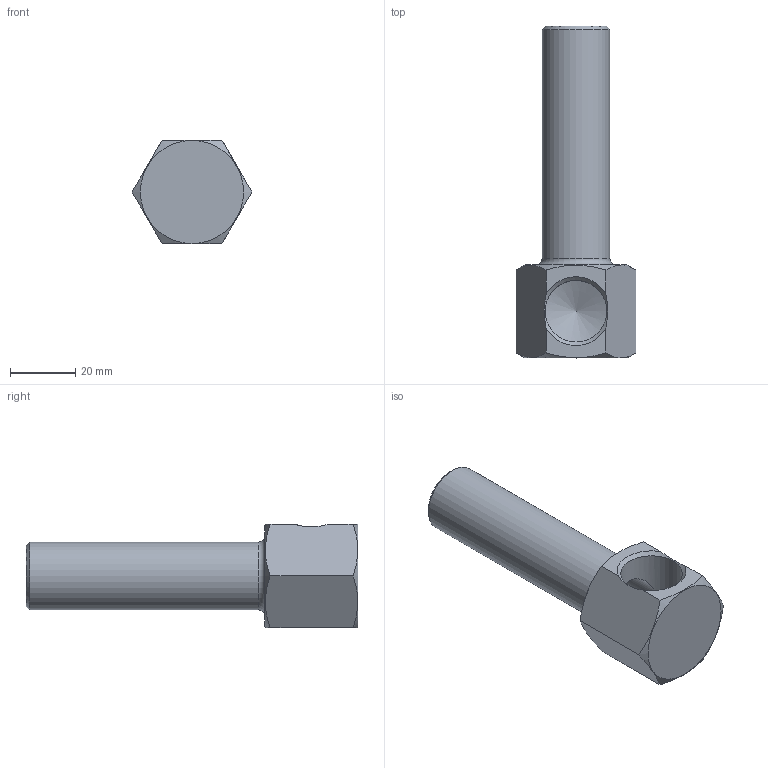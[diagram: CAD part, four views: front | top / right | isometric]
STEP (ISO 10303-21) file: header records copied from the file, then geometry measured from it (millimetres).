
FILE_DESCRIPTION(/* description */ (''),/* implementation_level */ '2;1');
FILE_NAME(/* name */ 'C:/Users/drich/Desktop/50B-4 v1.step',/* time_stamp */ '2019-12-29T15:25:52-06:00',/* author */ (''),/* organization */ (''),/* preprocessor_version */ 'ST-DEVELOPER v18',/* originating_system */ 'Autodesk Translation Framework v8.12.0.6',/* authorisation */ '');
FILE_SCHEMA (('AUTOMOTIVE_DESIGN { 1 0 10303 214 3 1 1 }'));
Length unit declared in the file: inch
Products named in the file (1): 50B-4
Bounding box: 36.66 x 101.6 x 31.75 mm (x, y, z)
Volume: 28602.4 mm3; surface area: 14237 mm2
Topology: 1 solids, 1 shells, 20 faces, 53 edges, 35 vertices
Faces by surface type: plane 10, cone 6, cylinder 3, torus 1
Full cylindrical faces by diameter (mm): 15.062 x1, 18.901 x1, 20.813 x1
Entity records: 687 total; most frequent: CARTESIAN_POINT 184, ORIENTED_EDGE 104, DIRECTION 91, EDGE_CURVE 52, AXIS2_PLACEMENT_3D 37, VERTEX_POINT 35, EDGE_LOOP 23, FACE_OUTER_BOUND 20
